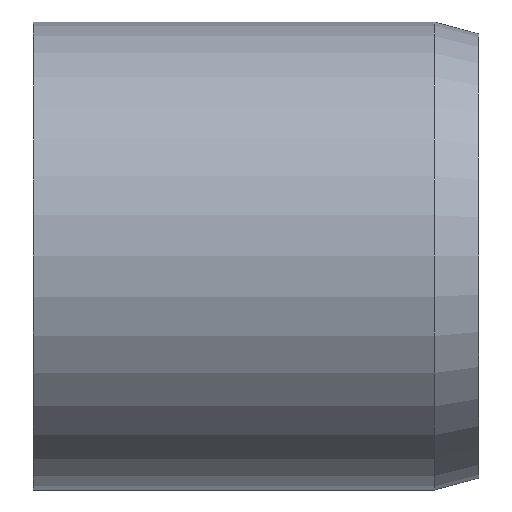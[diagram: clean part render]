
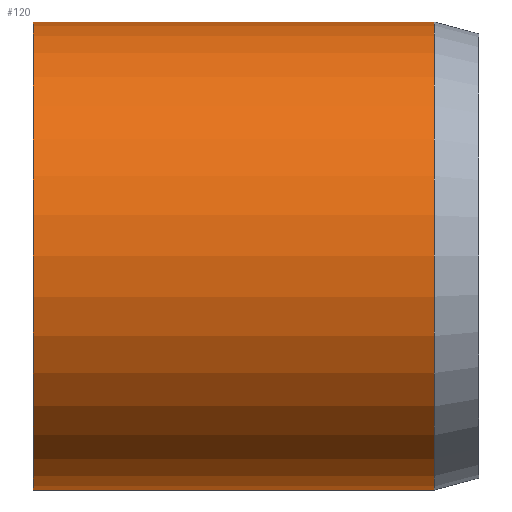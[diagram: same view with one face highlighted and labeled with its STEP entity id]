
A CAD part, front view. The second image highlights one B-rep face of the part: STEP entity #120.
In plain terms, the highlighted cylindrical face has radius 21 mm (diameter 42 mm), a full revolution.
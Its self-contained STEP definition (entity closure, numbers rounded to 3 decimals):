
#20=LINE('',#229,#23);
#23=VECTOR('',#197,21.);
#26=CYLINDRICAL_SURFACE('',#157,21.);
#32=FACE_OUTER_BOUND('',#41,.T.);
#41=EDGE_LOOP('',(#97,#98,#99,#100));
#49=CIRCLE('',#151,21.);
#53=CIRCLE('',#158,21.);
#59=VERTEX_POINT('',#217);
#62=VERTEX_POINT('',#227);
#70=EDGE_CURVE('',#59,#59,#49,.T.);
#74=EDGE_CURVE('',#62,#62,#53,.T.);
#75=EDGE_CURVE('',#62,#59,#20,.T.);
#97=ORIENTED_EDGE('',*,*,#74,.F.);
#98=ORIENTED_EDGE('',*,*,#75,.T.);
#99=ORIENTED_EDGE('',*,*,#70,.T.);
#100=ORIENTED_EDGE('',*,*,#75,.F.);
#120=ADVANCED_FACE('',(#32),#26,.T.);
#151=AXIS2_PLACEMENT_3D('',#218,#181,#182);
#157=AXIS2_PLACEMENT_3D('',#226,#193,#194);
#158=AXIS2_PLACEMENT_3D('',#228,#195,#196);
#181=DIRECTION('center_axis',(1.,0.,0.));
#182=DIRECTION('ref_axis',(0.,0.,-1.));
#193=DIRECTION('center_axis',(1.,0.,0.));
#194=DIRECTION('ref_axis',(0.,1.,0.));
#195=DIRECTION('center_axis',(1.,0.,0.));
#196=DIRECTION('ref_axis',(0.,0.,-1.));
#197=DIRECTION('',(-1.,0.,0.));
#217=CARTESIAN_POINT('',(0.,-21.,0.));
#218=CARTESIAN_POINT('Origin',(0.,0.,0.));
#226=CARTESIAN_POINT('Origin',(18.,0.,0.));
#227=CARTESIAN_POINT('',(36.,-21.,0.));
#228=CARTESIAN_POINT('Origin',(36.,0.,0.));
#229=CARTESIAN_POINT('',(18.,-21.,0.));
